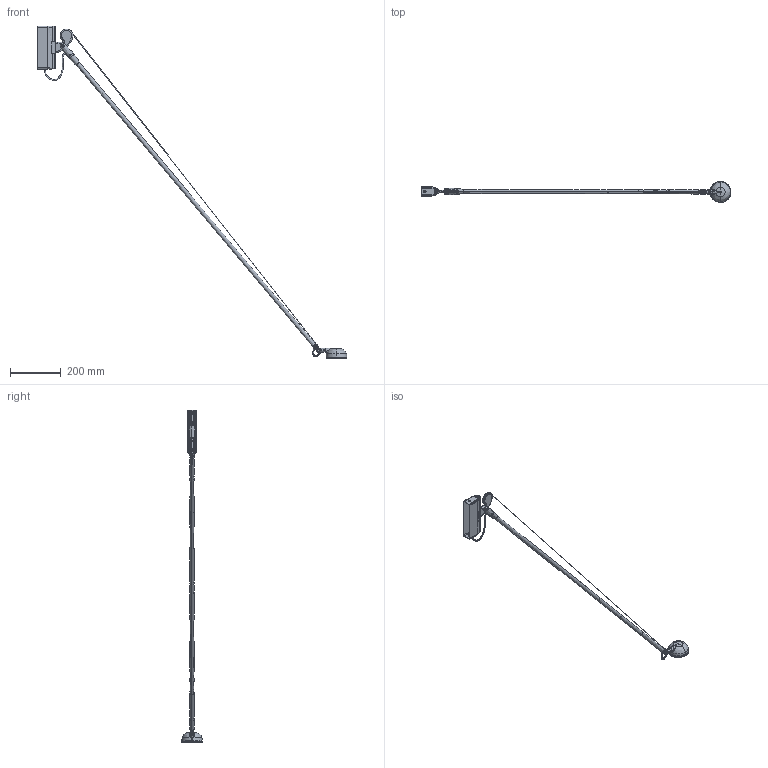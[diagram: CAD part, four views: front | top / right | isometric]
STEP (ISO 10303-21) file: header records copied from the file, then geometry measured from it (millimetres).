
FILE_DESCRIPTION(/* description */ (''),/* implementation_level */ '2;1');
FILE_NAME(/* name */ 'A068__~1',/* time_stamp */ '2024-07-09T17:24:52+02:00',/* author */ (''),/* organization */ (''),/* preprocessor_version */ 'ST-DEVELOPER v16.5',/* originating_system */ '',/* authorisation */ '');
FILE_SCHEMA (('AUTOMOTIVE_DESIGN'));
Products named in the file (1): Document
Bounding box: 1217.94 x 81.98 x 1304.88 mm (x, y, z)
Volume: 439670.1 mm3; surface area: 265473.2 mm2
Topology: 26 solids, 27 shells, 3256 faces, 7300 edges, 4670 vertices
Faces by surface type: bspline 2249, plane 1007
Entity records: 157422 total; most frequent: CARTESIAN_POINT 113165, ORIENTED_EDGE 14551, EDGE_CURVE 7279, VERTEX_POINT 4669, EDGE_LOOP 3895, B_SPLINE_CURVE_WITH_KNOTS 3509, ADVANCED_FACE 3256, FACE_OUTER_BOUND 3256
